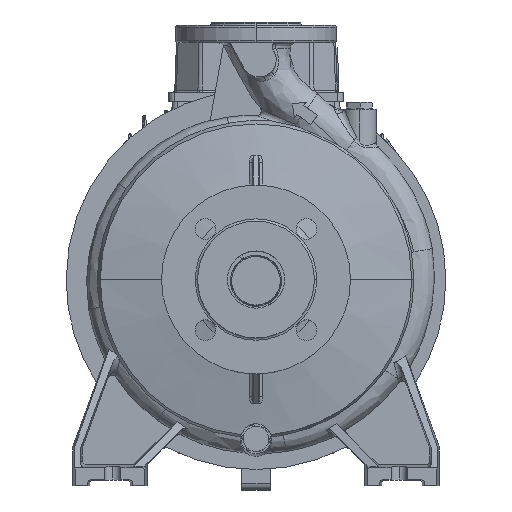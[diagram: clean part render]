
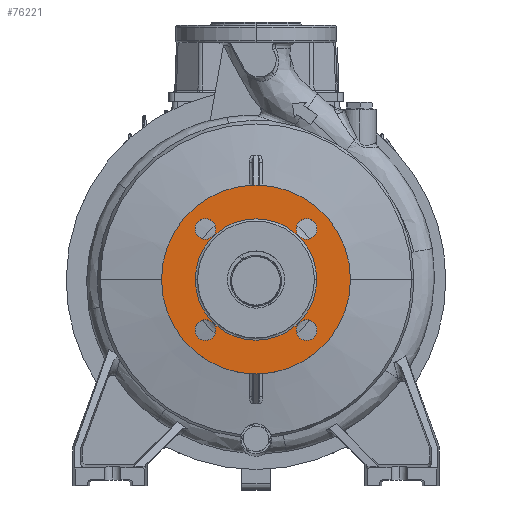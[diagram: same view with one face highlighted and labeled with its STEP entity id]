
A CAD part, top view. The second image highlights one B-rep face of the part: STEP entity #76221.
In plain terms, the highlighted planar face has unit normal (0, 0, 1).
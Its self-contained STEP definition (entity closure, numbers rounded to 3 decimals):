
#215 = DIRECTION ( 'NONE',  ( 1., 0., 0. ) ) ;
#2067 = DIRECTION ( 'NONE',  ( 0., 0., -1. ) ) ;
#2283 = VERTEX_POINT ( 'NONE', #143832 ) ;
#2337 = VERTEX_POINT ( 'NONE', #135897 ) ;
#5185 = CARTESIAN_POINT ( 'NONE',  ( -44.194, 44.194, 113.5 ) ) ;
#6193 = ORIENTED_EDGE ( 'NONE', *, *, #131196, .F. ) ;
#8079 = VERTEX_POINT ( 'NONE', #151548 ) ;
#8550 = VERTEX_POINT ( 'NONE', #59511 ) ;
#9623 = DIRECTION ( 'NONE',  ( 1., 0., 0. ) ) ;
#11216 = EDGE_CURVE ( 'NONE', #2283, #2337, #70463, .T. ) ;
#12440 = CARTESIAN_POINT ( 'NONE',  ( 0., 0., 113.5 ) ) ;
#12718 = DIRECTION ( 'NONE',  ( 1., 0., 0. ) ) ;
#13492 = CARTESIAN_POINT ( 'NONE',  ( -35.194, 44.194, 113.5 ) ) ;
#14653 = DIRECTION ( 'NONE',  ( 1., 0., 0. ) ) ;
#16611 = VERTEX_POINT ( 'NONE', #118194 ) ;
#17447 = ORIENTED_EDGE ( 'NONE', *, *, #152753, .F. ) ;
#17815 = EDGE_CURVE ( 'NONE', #105875, #16611, #80041, .T. ) ;
#18507 = CIRCLE ( 'NONE', #106445, 9. ) ;
#20697 = ORIENTED_EDGE ( 'NONE', *, *, #36647, .F. ) ;
#21263 = CARTESIAN_POINT ( 'NONE',  ( 53.194, 44.194, 113.5 ) ) ;
#22386 = CIRCLE ( 'NONE', #110326, 82.5 ) ;
#22976 = PLANE ( 'NONE',  #64012 ) ;
#23394 = EDGE_LOOP ( 'NONE', ( #41395, #116766 ) ) ;
#24041 = AXIS2_PLACEMENT_3D ( 'NONE', #124374, #87380, #148844 ) ;
#24531 = FACE_BOUND ( 'NONE', #23394, .T. ) ;
#25357 = CARTESIAN_POINT ( 'NONE',  ( -44.194, -44.194, 113.5 ) ) ;
#26638 = EDGE_LOOP ( 'NONE', ( #39896, #6193 ) ) ;
#32341 = CIRCLE ( 'NONE', #62452, 9. ) ;
#34124 = DIRECTION ( 'NONE',  ( 1., 0., 0. ) ) ;
#34138 = CIRCLE ( 'NONE', #71729, 53. ) ;
#34149 = EDGE_CURVE ( 'NONE', #105463, #95839, #87903, .T. ) ;
#35137 = CARTESIAN_POINT ( 'NONE',  ( 0., 0., 113.5 ) ) ;
#36647 = EDGE_CURVE ( 'NONE', #81084, #8079, #58368, .T. ) ;
#36844 = DIRECTION ( 'NONE',  ( 1., 0., 0. ) ) ;
#37002 = EDGE_CURVE ( 'NONE', #95839, #105463, #22386, .T. ) ;
#38800 = CARTESIAN_POINT ( 'NONE',  ( 44.194, -44.194, 113.5 ) ) ;
#39896 = ORIENTED_EDGE ( 'NONE', *, *, #102685, .F. ) ;
#41395 = ORIENTED_EDGE ( 'NONE', *, *, #112384, .T. ) ;
#45292 = CARTESIAN_POINT ( 'NONE',  ( -53.194, -44.194, 113.5 ) ) ;
#47683 = AXIS2_PLACEMENT_3D ( 'NONE', #12440, #145487, #36844 ) ;
#49036 = DIRECTION ( 'NONE',  ( 0., 0., 1. ) ) ;
#49741 = CARTESIAN_POINT ( 'NONE',  ( 44.194, 44.194, 113.5 ) ) ;
#52001 = CARTESIAN_POINT ( 'NONE',  ( 82.5, 0., 113.5 ) ) ;
#53089 = AXIS2_PLACEMENT_3D ( 'NONE', #38800, #49036, #98632 ) ;
#58368 = CIRCLE ( 'NONE', #146406, 9. ) ;
#59112 = FACE_BOUND ( 'NONE', #26638, .T. ) ;
#59511 = CARTESIAN_POINT ( 'NONE',  ( -35.194, -44.194, 113.5 ) ) ;
#61402 = FACE_BOUND ( 'NONE', #80656, .T. ) ;
#61756 = DIRECTION ( 'NONE',  ( 1., 0., 0. ) ) ;
#62452 = AXIS2_PLACEMENT_3D ( 'NONE', #145081, #82887, #215 ) ;
#64012 = AXIS2_PLACEMENT_3D ( 'NONE', #118968, #73225, #107153 ) ;
#68300 = EDGE_LOOP ( 'NONE', ( #137295, #98330 ) ) ;
#70463 = CIRCLE ( 'NONE', #146254, 53. ) ;
#71185 = CARTESIAN_POINT ( 'NONE',  ( -82.5, 0., 113.5 ) ) ;
#71303 = EDGE_CURVE ( 'NONE', #16611, #105875, #81856, .T. ) ;
#71729 = AXIS2_PLACEMENT_3D ( 'NONE', #122139, #107239, #108010 ) ;
#73225 = DIRECTION ( 'NONE',  ( 0., 0., 1. ) ) ;
#73596 = VERTEX_POINT ( 'NONE', #45292 ) ;
#76027 = CIRCLE ( 'NONE', #126299, 9. ) ;
#76221 = ADVANCED_FACE ( 'NONE', ( #106367, #96128, #61402, #59112, #24531, #142632 ), #22976, .T. ) ;
#76675 = CIRCLE ( 'NONE', #86689, 9. ) ;
#80041 = CIRCLE ( 'NONE', #97713, 9. ) ;
#80656 = EDGE_LOOP ( 'NONE', ( #20697, #103507 ) ) ;
#81084 = VERTEX_POINT ( 'NONE', #82434 ) ;
#81856 = CIRCLE ( 'NONE', #24041, 9. ) ;
#82315 = DIRECTION ( 'NONE',  ( 0., 0., 1. ) ) ;
#82434 = CARTESIAN_POINT ( 'NONE',  ( 53.194, -44.194, 113.5 ) ) ;
#82887 = DIRECTION ( 'NONE',  ( 0., 0., 1. ) ) ;
#83298 = CIRCLE ( 'NONE', #53089, 9. ) ;
#83641 = DIRECTION ( 'NONE',  ( 0., 0., 1. ) ) ;
#86689 = AXIS2_PLACEMENT_3D ( 'NONE', #49741, #83641, #34124 ) ;
#87380 = DIRECTION ( 'NONE',  ( 0., 0., 1. ) ) ;
#87903 = CIRCLE ( 'NONE', #47683, 82.5 ) ;
#95210 = EDGE_CURVE ( 'NONE', #8079, #81084, #83298, .T. ) ;
#95839 = VERTEX_POINT ( 'NONE', #52001 ) ;
#96128 = FACE_BOUND ( 'NONE', #130913, .T. ) ;
#97713 = AXIS2_PLACEMENT_3D ( 'NONE', #5185, #113053, #14653 ) ;
#98330 = ORIENTED_EDGE ( 'NONE', *, *, #34149, .T. ) ;
#98632 = DIRECTION ( 'NONE',  ( 1., 0., 0. ) ) ;
#102685 = EDGE_CURVE ( 'NONE', #114200, #110343, #76675, .T. ) ;
#103507 = ORIENTED_EDGE ( 'NONE', *, *, #95210, .F. ) ;
#104085 = DIRECTION ( 'NONE',  ( 0., 0., 1. ) ) ;
#105463 = VERTEX_POINT ( 'NONE', #71185 ) ;
#105875 = VERTEX_POINT ( 'NONE', #13492 ) ;
#106367 = FACE_BOUND ( 'NONE', #116943, .T. ) ;
#106445 = AXIS2_PLACEMENT_3D ( 'NONE', #25357, #146566, #12718 ) ;
#106689 = DIRECTION ( 'NONE',  ( 1., 0., 0. ) ) ;
#107153 = DIRECTION ( 'NONE',  ( 1., 0., 0. ) ) ;
#107239 = DIRECTION ( 'NONE',  ( 0., 0., -1. ) ) ;
#107299 = EDGE_CURVE ( 'NONE', #8550, #73596, #76027, .T. ) ;
#108010 = DIRECTION ( 'NONE',  ( -1., 0., 0. ) ) ;
#110326 = AXIS2_PLACEMENT_3D ( 'NONE', #35137, #131883, #61756 ) ;
#110343 = VERTEX_POINT ( 'NONE', #122394 ) ;
#112384 = EDGE_CURVE ( 'NONE', #2337, #2283, #34138, .T. ) ;
#113053 = DIRECTION ( 'NONE',  ( 0., 0., 1. ) ) ;
#114200 = VERTEX_POINT ( 'NONE', #21263 ) ;
#116766 = ORIENTED_EDGE ( 'NONE', *, *, #11216, .T. ) ;
#116943 = EDGE_LOOP ( 'NONE', ( #150707, #118008 ) ) ;
#117784 = ORIENTED_EDGE ( 'NONE', *, *, #107299, .F. ) ;
#118008 = ORIENTED_EDGE ( 'NONE', *, *, #71303, .F. ) ;
#118194 = CARTESIAN_POINT ( 'NONE',  ( -53.194, 44.194, 113.5 ) ) ;
#118968 = CARTESIAN_POINT ( 'NONE',  ( -53., 0., 113.5 ) ) ;
#122139 = CARTESIAN_POINT ( 'NONE',  ( 0., 0., 113.5 ) ) ;
#122394 = CARTESIAN_POINT ( 'NONE',  ( 35.194, 44.194, 113.5 ) ) ;
#124374 = CARTESIAN_POINT ( 'NONE',  ( -44.194, 44.194, 113.5 ) ) ;
#126299 = AXIS2_PLACEMENT_3D ( 'NONE', #142677, #104085, #9623 ) ;
#128311 = CARTESIAN_POINT ( 'NONE',  ( 0., 0., 113.5 ) ) ;
#130913 = EDGE_LOOP ( 'NONE', ( #117784, #17447 ) ) ;
#131196 = EDGE_CURVE ( 'NONE', #110343, #114200, #32341, .T. ) ;
#131883 = DIRECTION ( 'NONE',  ( 0., 0., 1. ) ) ;
#135897 = CARTESIAN_POINT ( 'NONE',  ( -53., 0., 113.5 ) ) ;
#137295 = ORIENTED_EDGE ( 'NONE', *, *, #37002, .T. ) ;
#141657 = DIRECTION ( 'NONE',  ( -1., 0., 0. ) ) ;
#142632 = FACE_OUTER_BOUND ( 'NONE', #68300, .T. ) ;
#142677 = CARTESIAN_POINT ( 'NONE',  ( -44.194, -44.194, 113.5 ) ) ;
#143832 = CARTESIAN_POINT ( 'NONE',  ( 53., 0., 113.5 ) ) ;
#145081 = CARTESIAN_POINT ( 'NONE',  ( 44.194, 44.194, 113.5 ) ) ;
#145487 = DIRECTION ( 'NONE',  ( 0., 0., 1. ) ) ;
#146254 = AXIS2_PLACEMENT_3D ( 'NONE', #128311, #2067, #141657 ) ;
#146406 = AXIS2_PLACEMENT_3D ( 'NONE', #155558, #82315, #106689 ) ;
#146566 = DIRECTION ( 'NONE',  ( 0., 0., 1. ) ) ;
#148844 = DIRECTION ( 'NONE',  ( 1., 0., 0. ) ) ;
#150707 = ORIENTED_EDGE ( 'NONE', *, *, #17815, .F. ) ;
#151548 = CARTESIAN_POINT ( 'NONE',  ( 35.194, -44.194, 113.5 ) ) ;
#152753 = EDGE_CURVE ( 'NONE', #73596, #8550, #18507, .T. ) ;
#155558 = CARTESIAN_POINT ( 'NONE',  ( 44.194, -44.194, 113.5 ) ) ;
